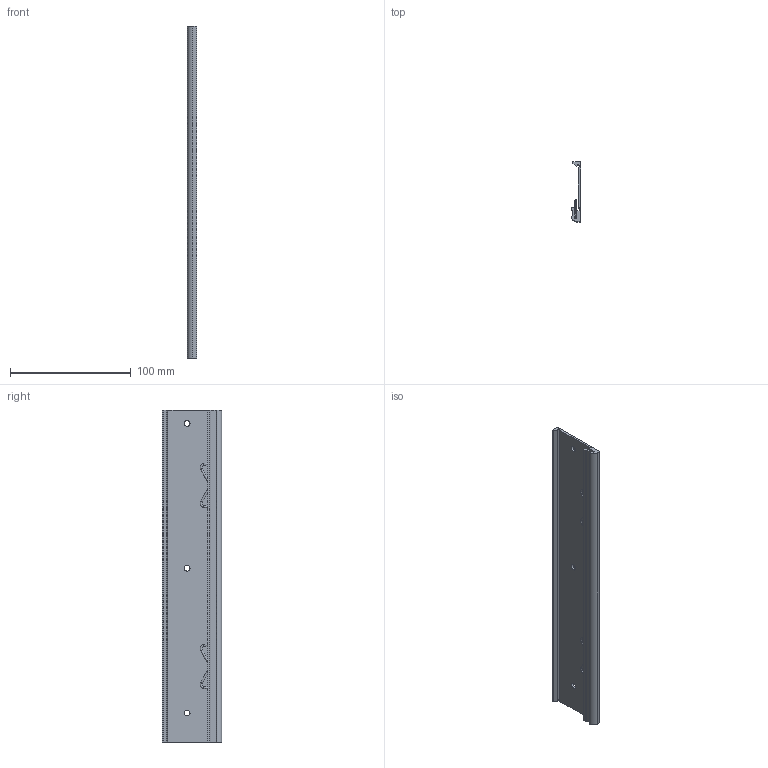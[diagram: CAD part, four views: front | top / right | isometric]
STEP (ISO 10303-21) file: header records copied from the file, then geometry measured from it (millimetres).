
FILE_DESCRIPTION((''),'2;1');
FILE_NAME('CU_DIN_SMASHER_8SLOT','2015-11-20T',('jbuhisan'),(''),'PRO/ENGINEER BY PARAMETRIC TECHNOLOGY CORPORATION, 2014000','PRO/ENGINEER BY PARAMETRIC TECHNOLOGY CORPORATION, 2014000','');
FILE_SCHEMA(('CONFIG_CONTROL_DESIGN'));
Length unit declared in the file: inch
Products named in the file (1): CU_DIN_SMASHER_8SLOT
Bounding box: 7.49 x 49.33 x 275 mm (x, y, z)
Volume: 38651.2 mm3; surface area: 39911.8 mm2
Topology: 3 solids, 3 shells, 78 faces, 176 edges, 104 vertices
Faces by surface type: cylinder 33, plane 25, torus 20
Entity records: 2214 total; most frequent: DIRECTION 418, CARTESIAN_POINT 358, ORIENTED_EDGE 352, EDGE_CURVE 176, AXIS2_PLACEMENT_3D 164, VERTEX_POINT 104, VECTOR 90, LINE 90
